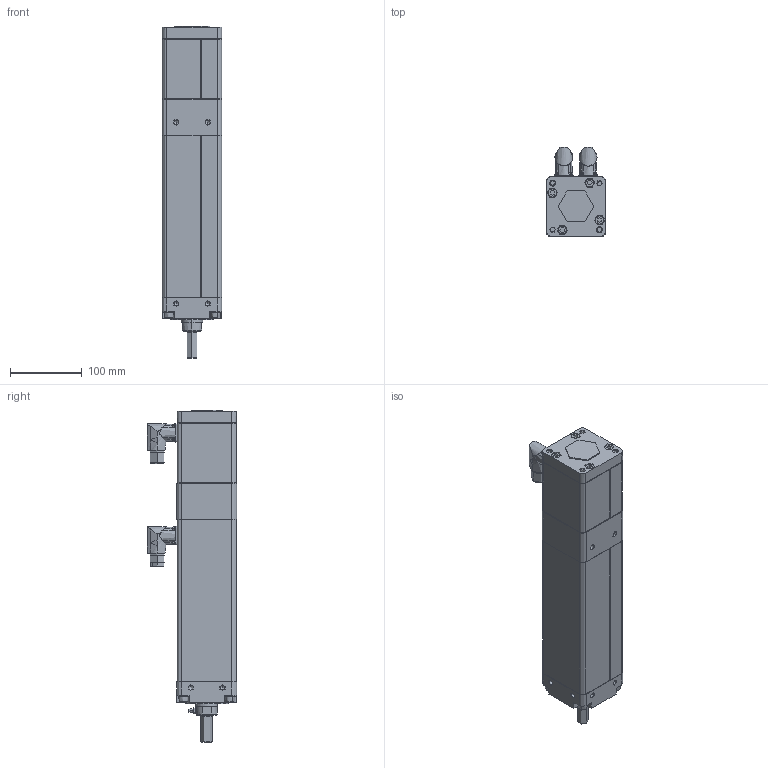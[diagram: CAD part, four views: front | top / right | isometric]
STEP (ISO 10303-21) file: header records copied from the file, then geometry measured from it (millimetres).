
FILE_DESCRIPTION((''),'2;1');
FILE_NAME('MPAI-A3150CM34A_ASM','2009-12-11T',('ALS'),('Rockwell Automation'),'PRO/ENGINEER BY PARAMETRIC TECHNOLOGY CORPORATION, 2004490','PRO/ENGINEER BY PARAMETRIC TECHNOLOGY CORPORATION, 2004490','');
FILE_SCHEMA(('CONFIG_CONTROL_DESIGN'));
Length unit declared in the file: inch
Products named in the file (5): TEMPJOIN0_27339012-71211-2_; BASE-71211-2_ANY; 71211-2_ANY_ASM; _MPAI-A3150CM34A; MPAI-A3150CM34A_ASM
Assembly tree (4 placements, depth 3):
  MPAI-A3150CM34A_ASM
    71211-2_ANY_ASM
      TEMPJOIN0_27339012-71211-2_
      BASE-71211-2_ANY
    _MPAI-A3150CM34A
Bounding box: 83.57 x 124.56 x 462.97 mm (x, y, z)
Topology: 14 solids, 27 shells, 1203 faces, 3065 edges, 2041 vertices
Faces by surface type: plane 582, cylinder 459, cone 152, torus 10
Entity records: 37121 total; most frequent: CARTESIAN_POINT 6821, DIRECTION 6616, ORIENTED_EDGE 6058, EDGE_CURVE 3031, AXIS2_PLACEMENT_3D 2434, VERTEX_POINT 2043, VECTOR 1748, LINE 1748
